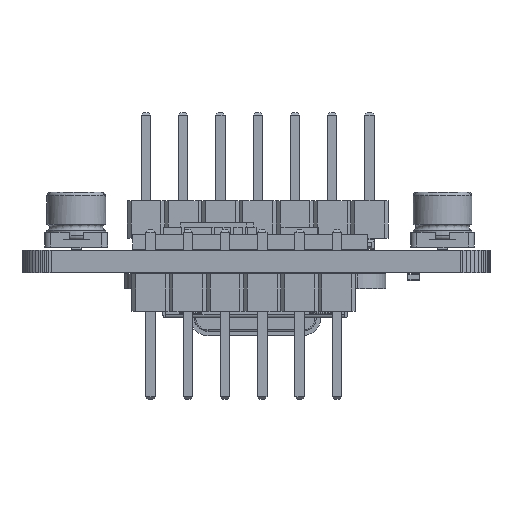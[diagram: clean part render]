
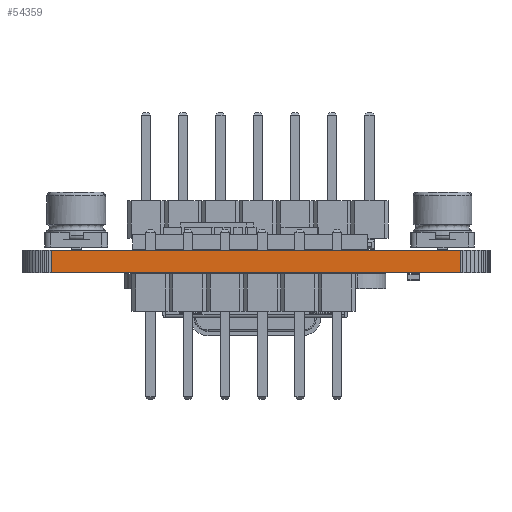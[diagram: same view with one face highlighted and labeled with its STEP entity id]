
A CAD part, front view. The second image highlights one B-rep face of the part: STEP entity #54359.
In plain terms, the highlighted planar face has unit normal (0, -1, 0).
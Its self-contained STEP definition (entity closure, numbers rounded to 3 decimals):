
#52519 = VERTEX_POINT('',#52520);
#52520 = CARTESIAN_POINT('',(95.8,-96.9,0.));
#52526 = EDGE_CURVE('',#52527,#52519,#52529,.T.);
#52527 = VERTEX_POINT('',#52528);
#52528 = CARTESIAN_POINT('',(123.7,-96.9,0.));
#52529 = LINE('',#52530,#52531);
#52530 = CARTESIAN_POINT('',(123.7,-96.9,0.));
#52531 = VECTOR('',#52532,1.);
#52532 = DIRECTION('',(-1.,0.,0.));
#53082 = VERTEX_POINT('',#53083);
#53083 = CARTESIAN_POINT('',(95.8,-96.9,1.51));
#53089 = EDGE_CURVE('',#53090,#53082,#53092,.T.);
#53090 = VERTEX_POINT('',#53091);
#53091 = CARTESIAN_POINT('',(123.7,-96.9,1.51));
#53092 = LINE('',#53093,#53094);
#53093 = CARTESIAN_POINT('',(123.7,-96.9,1.51));
#53094 = VECTOR('',#53095,1.);
#53095 = DIRECTION('',(-1.,0.,0.));
#54331 = EDGE_CURVE('',#52527,#53090,#54332,.T.);
#54332 = LINE('',#54333,#54334);
#54333 = CARTESIAN_POINT('',(123.7,-96.9,0.));
#54334 = VECTOR('',#54335,1.);
#54335 = DIRECTION('',(0.,0.,1.));
#54359 = ADVANCED_FACE('',(#54360),#54371,.T.);
#54360 = FACE_BOUND('',#54361,.T.);
#54361 = EDGE_LOOP('',(#54362,#54363,#54364,#54370));
#54362 = ORIENTED_EDGE('',*,*,#54331,.T.);
#54363 = ORIENTED_EDGE('',*,*,#53089,.T.);
#54364 = ORIENTED_EDGE('',*,*,#54365,.F.);
#54365 = EDGE_CURVE('',#52519,#53082,#54366,.T.);
#54366 = LINE('',#54367,#54368);
#54367 = CARTESIAN_POINT('',(95.8,-96.9,0.));
#54368 = VECTOR('',#54369,1.);
#54369 = DIRECTION('',(0.,0.,1.));
#54370 = ORIENTED_EDGE('',*,*,#52526,.F.);
#54371 = PLANE('',#54372);
#54372 = AXIS2_PLACEMENT_3D('',#54373,#54374,#54375);
#54373 = CARTESIAN_POINT('',(123.7,-96.9,0.));
#54374 = DIRECTION('',(0.,-1.,0.));
#54375 = DIRECTION('',(-1.,0.,0.));
